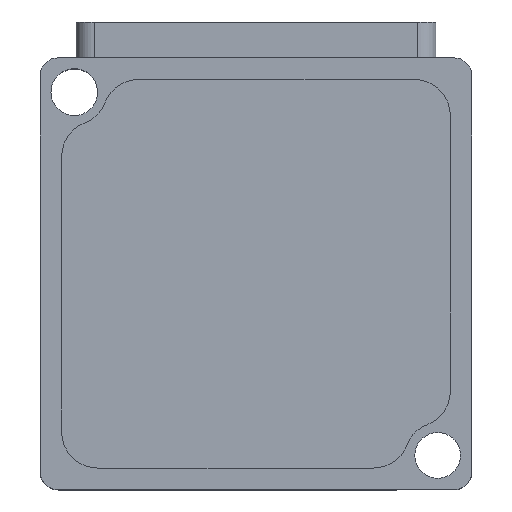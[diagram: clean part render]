
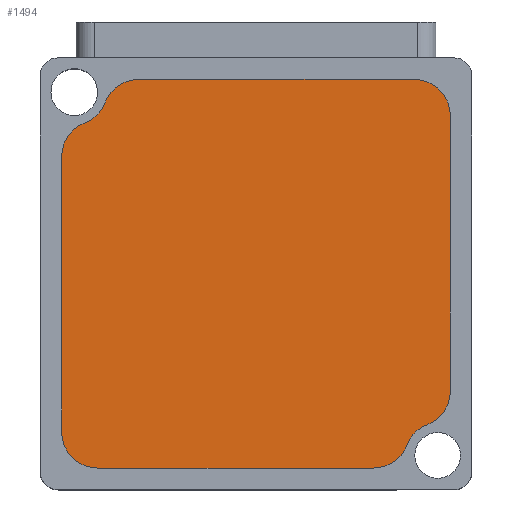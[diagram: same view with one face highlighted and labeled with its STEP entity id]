
A CAD part, top view. The second image highlights one B-rep face of the part: STEP entity #1494.
In plain terms, the highlighted planar face has unit normal (0, 0, 1).
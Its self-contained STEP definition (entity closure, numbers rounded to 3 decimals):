
#4 = FACE_OUTER_BOUND ( 'NONE', #1985, .T. ) ;
#38 = VERTEX_POINT ( 'NONE', #1209 ) ;
#44 = CARTESIAN_POINT ( 'NONE',  ( -48.802, 8.002, 6. ) ) ;
#75 = CARTESIAN_POINT ( 'NONE',  ( -31.202, -5.056, 6. ) ) ;
#151 = EDGE_CURVE ( 'NONE', #2645, #1177, #950, .T. ) ;
#152 = CARTESIAN_POINT ( 'NONE',  ( -33.472, -7.327, 6. ) ) ;
#340 = DIRECTION ( 'NONE',  ( 0., -1., 0. ) ) ;
#398 = CARTESIAN_POINT ( 'NONE',  ( -48.41, 10.957, 6. ) ) ;
#432 = DIRECTION ( 'NONE',  ( 0., -1., 0. ) ) ;
#515 = CARTESIAN_POINT ( 'NONE',  ( -31.593, -8.011, 6. ) ) ;
#526 = EDGE_CURVE ( 'NONE', #1119, #3550, #2686, .T. ) ;
#549 = ORIENTED_EDGE ( 'NONE', *, *, #3363, .T. ) ;
#675 = AXIS2_PLACEMENT_3D ( 'NONE', #1185, #2661, #3777 ) ;
#704 = VECTOR ( 'NONE', #2516, 1000. ) ;
#731 = CARTESIAN_POINT ( 'NONE',  ( -40.002, 1.473, 6. ) ) ;
#805 = VECTOR ( 'NONE', #3532, 1000. ) ;
#812 = VERTEX_POINT ( 'NONE', #3743 ) ;
#864 = EDGE_CURVE ( 'NONE', #3567, #3916, #3138, .T. ) ;
#918 = AXIS2_PLACEMENT_3D ( 'NONE', #75, #1166, #1596 ) ;
#950 = LINE ( 'NONE', #1632, #805 ) ;
#993 = DIRECTION ( 'NONE',  ( 0., -1., 0. ) ) ;
#1076 = DIRECTION ( 'NONE',  ( 0., -1., 0. ) ) ;
#1114 = VERTEX_POINT ( 'NONE', #3764 ) ;
#1119 = VERTEX_POINT ( 'NONE', #398 ) ;
#1166 = DIRECTION ( 'NONE',  ( 0., 0., 1. ) ) ;
#1177 = VERTEX_POINT ( 'NONE', #1867 ) ;
#1185 = CARTESIAN_POINT ( 'NONE',  ( -29.902, -8.627, 6. ) ) ;
#1209 = CARTESIAN_POINT ( 'NONE',  ( -29.202, -5.056, 6. ) ) ;
#1210 = DIRECTION ( 'NONE',  ( 0., 0., -1. ) ) ;
#1251 = DIRECTION ( 'NONE',  ( 0., -1., 0. ) ) ;
#1290 = ORIENTED_EDGE ( 'NONE', *, *, #1844, .T. ) ;
#1353 = CARTESIAN_POINT ( 'NONE',  ( -40.002, -9.327, 6. ) ) ;
#1395 = CARTESIAN_POINT ( 'NONE',  ( -50.102, 11.573, 6. ) ) ;
#1457 = AXIS2_PLACEMENT_3D ( 'NONE', #1395, #2899, #4388 ) ;
#1486 = CARTESIAN_POINT ( 'NONE',  ( -40.002, 12.273, 6. ) ) ;
#1494 = ADVANCED_FACE ( 'NONE', ( #4 ), #4822, .T. ) ;
#1515 = EDGE_CURVE ( 'NONE', #812, #3550, #2204, .T. ) ;
#1596 = DIRECTION ( 'NONE',  ( 0., -1., 0. ) ) ;
#1604 = VECTOR ( 'NONE', #2360, 1000. ) ;
#1632 = CARTESIAN_POINT ( 'NONE',  ( -50.802, 1.473, 6. ) ) ;
#1722 = DIRECTION ( 'NONE',  ( 0., 0., 1. ) ) ;
#1737 = AXIS2_PLACEMENT_3D ( 'NONE', #4571, #1210, #4210 ) ;
#1772 = CIRCLE ( 'NONE', #2791, 2. ) ;
#1844 = EDGE_CURVE ( 'NONE', #1177, #3218, #1772, .T. ) ;
#1867 = CARTESIAN_POINT ( 'NONE',  ( -50.802, -7.327, 6. ) ) ;
#1919 = ORIENTED_EDGE ( 'NONE', *, *, #2328, .F. ) ;
#1933 = AXIS2_PLACEMENT_3D ( 'NONE', #1986, #1722, #3942 ) ;
#1977 = ORIENTED_EDGE ( 'NONE', *, *, #3240, .F. ) ;
#1981 = DIRECTION ( 'NONE',  ( 0., 0., 1. ) ) ;
#1985 = EDGE_LOOP ( 'NONE', ( #2029, #549, #1977, #4651, #3429, #3901, #3572, #2744, #4741, #1290, #1919, #2567 ) ) ;
#1986 = CARTESIAN_POINT ( 'NONE',  ( -31.202, 10.273, 6. ) ) ;
#2029 = ORIENTED_EDGE ( 'NONE', *, *, #2094, .F. ) ;
#2092 = CARTESIAN_POINT ( 'NONE',  ( -33.472, -9.327, 6. ) ) ;
#2094 = EDGE_CURVE ( 'NONE', #1114, #3916, #4051, .T. ) ;
#2097 = CARTESIAN_POINT ( 'NONE',  ( -48.802, -7.327, 6. ) ) ;
#2142 = CARTESIAN_POINT ( 'NONE',  ( -48.802, -9.327, 6. ) ) ;
#2200 = CARTESIAN_POINT ( 'NONE',  ( -29.202, 1.473, 6. ) ) ;
#2204 = LINE ( 'NONE', #1486, #704 ) ;
#2263 = CARTESIAN_POINT ( 'NONE',  ( -49.486, 9.882, 6. ) ) ;
#2303 = EDGE_CURVE ( 'NONE', #4178, #812, #4057, .T. ) ;
#2328 = EDGE_CURVE ( 'NONE', #3567, #3218, #3570, .T. ) ;
#2360 = DIRECTION ( 'NONE',  ( -1., 0., 0. ) ) ;
#2468 = CARTESIAN_POINT ( 'NONE',  ( -50.802, 8.002, 6. ) ) ;
#2516 = DIRECTION ( 'NONE',  ( -1., 0., 0. ) ) ;
#2567 = ORIENTED_EDGE ( 'NONE', *, *, #864, .T. ) ;
#2590 = LINE ( 'NONE', #2200, #3278 ) ;
#2645 = VERTEX_POINT ( 'NONE', #2468 ) ;
#2661 = DIRECTION ( 'NONE',  ( 0., 0., 1. ) ) ;
#2686 = CIRCLE ( 'NONE', #1737, 2. ) ;
#2744 = ORIENTED_EDGE ( 'NONE', *, *, #4187, .T. ) ;
#2788 = AXIS2_PLACEMENT_3D ( 'NONE', #44, #3796, #432 ) ;
#2791 = AXIS2_PLACEMENT_3D ( 'NONE', #2097, #4694, #993 ) ;
#2899 = DIRECTION ( 'NONE',  ( 0., 0., 1. ) ) ;
#3138 = CIRCLE ( 'NONE', #4617, 2. ) ;
#3204 = CARTESIAN_POINT ( 'NONE',  ( -46.531, 12.273, 6. ) ) ;
#3218 = VERTEX_POINT ( 'NONE', #2142 ) ;
#3240 = EDGE_CURVE ( 'NONE', #4178, #38, #2590, .T. ) ;
#3278 = VECTOR ( 'NONE', #340, 1000. ) ;
#3345 = CIRCLE ( 'NONE', #2788, 2. ) ;
#3358 = CIRCLE ( 'NONE', #918, 2. ) ;
#3363 = EDGE_CURVE ( 'NONE', #1114, #38, #3358, .T. ) ;
#3429 = ORIENTED_EDGE ( 'NONE', *, *, #1515, .T. ) ;
#3532 = DIRECTION ( 'NONE',  ( 0., -1., 0. ) ) ;
#3550 = VERTEX_POINT ( 'NONE', #3204 ) ;
#3567 = VERTEX_POINT ( 'NONE', #2092 ) ;
#3570 = LINE ( 'NONE', #1353, #1604 ) ;
#3572 = ORIENTED_EDGE ( 'NONE', *, *, #4483, .F. ) ;
#3730 = DIRECTION ( 'NONE',  ( 0., 0., 1. ) ) ;
#3743 = CARTESIAN_POINT ( 'NONE',  ( -31.202, 12.273, 6. ) ) ;
#3764 = CARTESIAN_POINT ( 'NONE',  ( -30.517, -6.935, 6. ) ) ;
#3774 = VERTEX_POINT ( 'NONE', #2263 ) ;
#3777 = DIRECTION ( 'NONE',  ( 0., -1., 0. ) ) ;
#3796 = DIRECTION ( 'NONE',  ( 0., 0., 1. ) ) ;
#3825 = CIRCLE ( 'NONE', #1457, 1.8 ) ;
#3901 = ORIENTED_EDGE ( 'NONE', *, *, #526, .F. ) ;
#3916 = VERTEX_POINT ( 'NONE', #515 ) ;
#3942 = DIRECTION ( 'NONE',  ( 0., -1., 0. ) ) ;
#4051 = CIRCLE ( 'NONE', #675, 1.8 ) ;
#4057 = CIRCLE ( 'NONE', #1933, 2. ) ;
#4178 = VERTEX_POINT ( 'NONE', #4520 ) ;
#4187 = EDGE_CURVE ( 'NONE', #3774, #2645, #3345, .T. ) ;
#4210 = DIRECTION ( 'NONE',  ( 0., -1., 0. ) ) ;
#4226 = AXIS2_PLACEMENT_3D ( 'NONE', #731, #3730, #1076 ) ;
#4388 = DIRECTION ( 'NONE',  ( 0., -1., 0. ) ) ;
#4483 = EDGE_CURVE ( 'NONE', #3774, #1119, #3825, .T. ) ;
#4520 = CARTESIAN_POINT ( 'NONE',  ( -29.202, 10.273, 6. ) ) ;
#4571 = CARTESIAN_POINT ( 'NONE',  ( -46.531, 10.273, 6. ) ) ;
#4617 = AXIS2_PLACEMENT_3D ( 'NONE', #152, #1981, #1251 ) ;
#4651 = ORIENTED_EDGE ( 'NONE', *, *, #2303, .T. ) ;
#4694 = DIRECTION ( 'NONE',  ( 0., 0., 1. ) ) ;
#4741 = ORIENTED_EDGE ( 'NONE', *, *, #151, .T. ) ;
#4822 = PLANE ( 'NONE',  #4226 ) ;
